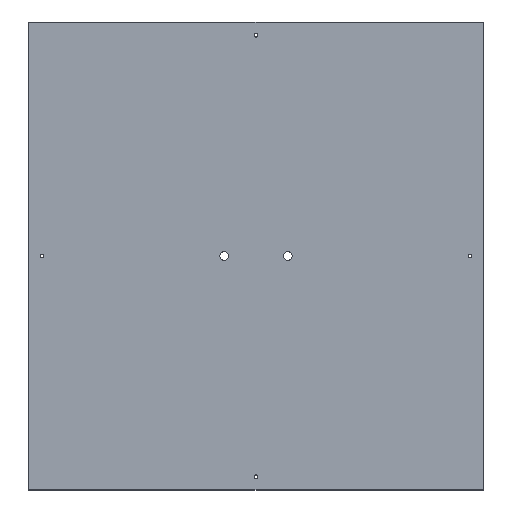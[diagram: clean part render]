
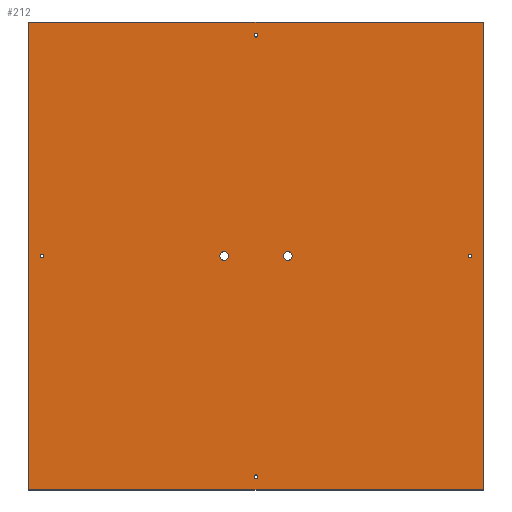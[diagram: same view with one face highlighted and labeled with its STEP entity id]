
A CAD part, top view. The second image highlights one B-rep face of the part: STEP entity #212.
In plain terms, the highlighted planar face has unit normal (0, 0, 1).
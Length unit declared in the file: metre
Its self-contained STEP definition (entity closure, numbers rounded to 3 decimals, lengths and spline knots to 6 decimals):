
#18=LINE('',#337,#30);
#19=LINE('',#340,#31);
#20=LINE('',#342,#32);
#21=LINE('',#344,#33);
#30=VECTOR('',#277,1.);
#31=VECTOR('',#278,1.);
#32=VECTOR('',#279,1.);
#33=VECTOR('',#280,1.);
#42=ORIENTED_EDGE('',*,*,#90,.F.);
#43=ORIENTED_EDGE('',*,*,#91,.F.);
#44=ORIENTED_EDGE('',*,*,#92,.F.);
#45=ORIENTED_EDGE('',*,*,#93,.F.);
#46=ORIENTED_EDGE('',*,*,#94,.F.);
#47=ORIENTED_EDGE('',*,*,#95,.F.);
#48=ORIENTED_EDGE('',*,*,#96,.F.);
#49=ORIENTED_EDGE('',*,*,#97,.T.);
#50=ORIENTED_EDGE('',*,*,#98,.T.);
#51=ORIENTED_EDGE('',*,*,#99,.F.);
#90=EDGE_CURVE('',#114,#114,#134,.T.);
#91=EDGE_CURVE('',#115,#115,#135,.T.);
#92=EDGE_CURVE('',#116,#116,#136,.T.);
#93=EDGE_CURVE('',#117,#117,#137,.T.);
#94=EDGE_CURVE('',#118,#118,#138,.T.);
#95=EDGE_CURVE('',#119,#119,#139,.T.);
#96=EDGE_CURVE('',#120,#121,#18,.T.);
#97=EDGE_CURVE('',#120,#122,#19,.T.);
#98=EDGE_CURVE('',#122,#123,#20,.T.);
#99=EDGE_CURVE('',#121,#123,#21,.T.);
#114=VERTEX_POINT('',#326);
#115=VERTEX_POINT('',#328);
#116=VERTEX_POINT('',#330);
#117=VERTEX_POINT('',#332);
#118=VERTEX_POINT('',#334);
#119=VERTEX_POINT('',#336);
#120=VERTEX_POINT('',#338);
#121=VERTEX_POINT('',#339);
#122=VERTEX_POINT('',#341);
#123=VERTEX_POINT('',#343);
#134=CIRCLE('',#238,0.001613);
#135=CIRCLE('',#239,0.001613);
#136=CIRCLE('',#240,0.001613);
#137=CIRCLE('',#241,0.001613);
#138=CIRCLE('',#242,0.004018);
#139=CIRCLE('',#243,0.004018);
#146=EDGE_LOOP('',(#42));
#147=EDGE_LOOP('',(#43));
#148=EDGE_LOOP('',(#44));
#149=EDGE_LOOP('',(#45));
#150=EDGE_LOOP('',(#46));
#151=EDGE_LOOP('',(#47));
#152=EDGE_LOOP('',(#48,#49,#50,#51));
#176=FACE_BOUND('',#146,.T.);
#177=FACE_BOUND('',#147,.T.);
#178=FACE_BOUND('',#148,.T.);
#179=FACE_BOUND('',#149,.T.);
#180=FACE_BOUND('',#150,.T.);
#181=FACE_BOUND('',#151,.T.);
#182=FACE_BOUND('',#152,.T.);
#206=PLANE('',#237);
#212=ADVANCED_FACE('',(#176,#177,#178,#179,#180,#181,#182),#206,.T.);
#237=AXIS2_PLACEMENT_3D('',#324,#263,#264);
#238=AXIS2_PLACEMENT_3D('',#325,#265,#266);
#239=AXIS2_PLACEMENT_3D('',#327,#267,#268);
#240=AXIS2_PLACEMENT_3D('',#329,#269,#270);
#241=AXIS2_PLACEMENT_3D('',#331,#271,#272);
#242=AXIS2_PLACEMENT_3D('',#333,#273,#274);
#243=AXIS2_PLACEMENT_3D('',#335,#275,#276);
#263=DIRECTION('',(0.,0.,1.));
#264=DIRECTION('',(1.,0.,0.));
#265=DIRECTION('',(0.,0.,1.));
#266=DIRECTION('',(1.,0.,0.));
#267=DIRECTION('',(0.,0.,1.));
#268=DIRECTION('',(1.,0.,0.));
#269=DIRECTION('',(0.,0.,1.));
#270=DIRECTION('',(1.,0.,0.));
#271=DIRECTION('',(0.,0.,1.));
#272=DIRECTION('',(1.,0.,0.));
#273=DIRECTION('',(0.,0.,1.));
#274=DIRECTION('',(1.,0.,0.));
#275=DIRECTION('',(0.,0.,1.));
#276=DIRECTION('',(1.,0.,0.));
#277=DIRECTION('',(1.,0.,0.));
#278=DIRECTION('',(0.,-1.,0.));
#279=DIRECTION('',(1.,0.,0.));
#280=DIRECTION('',(0.,-1.,0.));
#324=CARTESIAN_POINT('',(0.,0.,0.00635));
#325=CARTESIAN_POINT('',(0.,-0.206375,0.00635));
#326=CARTESIAN_POINT('',(0.001613,-0.206375,0.00635));
#327=CARTESIAN_POINT('',(0.,0.206375,0.00635));
#328=CARTESIAN_POINT('',(0.001613,0.206375,0.00635));
#329=CARTESIAN_POINT('',(0.200025,0.,0.00635));
#330=CARTESIAN_POINT('',(0.201638,0.,0.00635));
#331=CARTESIAN_POINT('',(-0.200025,0.,0.00635));
#332=CARTESIAN_POINT('',(-0.198412,0.,0.00635));
#333=CARTESIAN_POINT('',(0.029766,0.,0.00635));
#334=CARTESIAN_POINT('',(0.033784,0.,0.00635));
#335=CARTESIAN_POINT('',(-0.029766,0.,0.00635));
#336=CARTESIAN_POINT('',(-0.025747,0.,0.00635));
#337=CARTESIAN_POINT('',(0.,0.218821,0.00635));
#338=CARTESIAN_POINT('',(-0.212471,0.218821,0.00635));
#339=CARTESIAN_POINT('',(0.212471,0.218821,0.00635));
#340=CARTESIAN_POINT('',(-0.212471,0.,0.00635));
#341=CARTESIAN_POINT('',(-0.212471,-0.218821,0.00635));
#342=CARTESIAN_POINT('',(0.,-0.218821,0.00635));
#343=CARTESIAN_POINT('',(0.212471,-0.218821,0.00635));
#344=CARTESIAN_POINT('',(0.212471,0.,0.00635));
